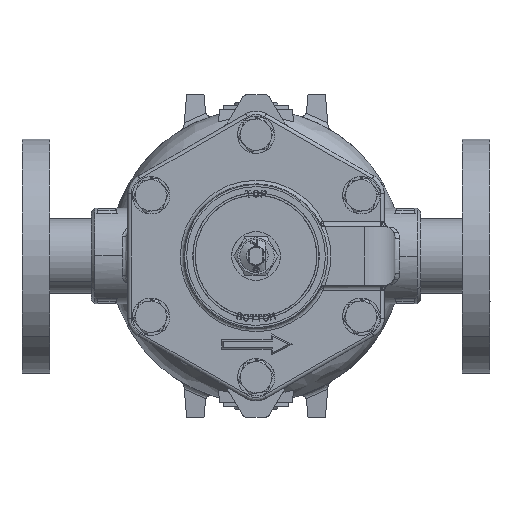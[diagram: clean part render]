
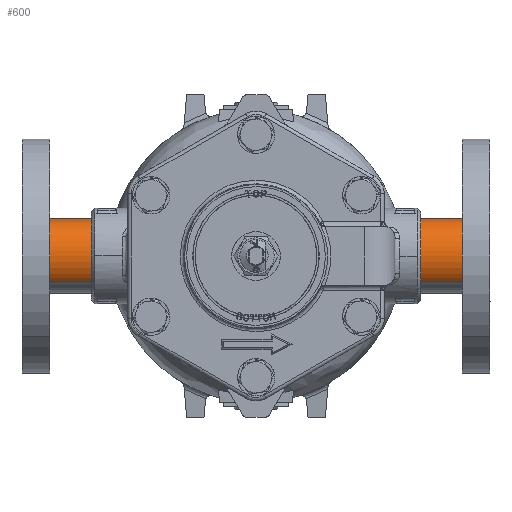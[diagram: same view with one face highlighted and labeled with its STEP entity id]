
A CAD part, front view. The second image highlights one B-rep face of the part: STEP entity #600.
In plain terms, the highlighted cylindrical face has radius 21.35 mm (diameter 42.7 mm), a partial arc.
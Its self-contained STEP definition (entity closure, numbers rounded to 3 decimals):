
#600=ADVANCED_FACE('',(#1590),#1589,.T.);
#1589=CYLINDRICAL_SURFACE('',#9624,21.35);
#1590=FACE_OUTER_BOUND('',#9625,.T.);
#9621=CARTESIAN_POINT('',(0.,266.5,0.));
#9622=DIRECTION('',(0.,1.,0.));
#9623=DIRECTION('',(0.725,0.,0.688));
#9624=AXIS2_PLACEMENT_3D('',#9621,#9622,#9623);
#9625=EDGE_LOOP('',(#24238,#24239,#24240,#24241,#24242,#24243,#24244,#24245,#24246,#24247));
#24238=ORIENTED_EDGE('',*,*,#29168,.F.);
#24239=ORIENTED_EDGE('',*,*,#29167,.F.);
#24240=ORIENTED_EDGE('',*,*,#29166,.F.);
#24241=ORIENTED_EDGE('',*,*,#29165,.F.);
#24242=ORIENTED_EDGE('',*,*,#29180,.T.);
#24243=ORIENTED_EDGE('',*,*,#29150,.T.);
#24244=ORIENTED_EDGE('',*,*,#29149,.T.);
#24245=ORIENTED_EDGE('',*,*,#29148,.T.);
#24246=ORIENTED_EDGE('',*,*,#29147,.T.);
#24247=ORIENTED_EDGE('',*,*,#29181,.F.);
#29147=EDGE_CURVE('',#32316,#32308,#32317,.T.);
#29148=EDGE_CURVE('',#32323,#32316,#32324,.T.);
#29149=EDGE_CURVE('',#32330,#32323,#32331,.T.);
#29150=EDGE_CURVE('',#32337,#32330,#32338,.T.);
#29165=EDGE_CURVE('',#32435,#32442,#32443,.T.);
#29166=EDGE_CURVE('',#32442,#32449,#32450,.T.);
#29167=EDGE_CURVE('',#32449,#32456,#32457,.T.);
#29168=EDGE_CURVE('',#32456,#32463,#32464,.T.);
#29180=EDGE_CURVE('',#32435,#32337,#32544,.T.);
#29181=EDGE_CURVE('',#32463,#32308,#32550,.T.);
#32308=VERTEX_POINT('',#49266);
#32316=VERTEX_POINT('',#49275);
#32317=(BOUNDED_CURVE() B_SPLINE_CURVE(3,(#49276,#49277,#49278,#49279,#49280,#49281,#49282),.UNSPECIFIED.,.F.,.F.) B_SPLINE_CURVE_WITH_KNOTS((4,1,1,1,4),(0.,4.454,8.908,14.41,16.209),.UNSPECIFIED.) CURVE() GEOMETRIC_REPRESENTATION_ITEM() RATIONAL_B_SPLINE_CURVE((1.,1.,1.,1.,1.,1.,1.)) REPRESENTATION_ITEM('') );
#32323=VERTEX_POINT('',#49283);
#32324=(BOUNDED_CURVE() B_SPLINE_CURVE(3,(#49284,#49285,#49286,#49287,#49288,#49289,#49290),.UNSPECIFIED.,.F.,.F.) B_SPLINE_CURVE_WITH_KNOTS((4,1,1,1,4),(0.,4.061,8.934,13.266,17.327),.UNSPECIFIED.) CURVE() GEOMETRIC_REPRESENTATION_ITEM() RATIONAL_B_SPLINE_CURVE((1.,1.,1.,1.,1.,1.,1.)) REPRESENTATION_ITEM('') );
#32330=VERTEX_POINT('',#49291);
#32331=CIRCLE('',#49295,21.35);
#32337=VERTEX_POINT('',#49296);
#32338=CIRCLE('',#49300,21.35);
#32435=VERTEX_POINT('',#49390);
#32442=VERTEX_POINT('',#49395);
#32443=CIRCLE('',#49399,21.35);
#32449=VERTEX_POINT('',#49400);
#32450=(BOUNDED_CURVE() B_SPLINE_CURVE(3,(#49401,#49402,#49403,#49404,#49405,#49406),.UNSPECIFIED.,.F.,.F.) B_SPLINE_CURVE_WITH_KNOTS((4,1,1,4),(0.,5.572,11.144,16.209),.UNSPECIFIED.) CURVE() GEOMETRIC_REPRESENTATION_ITEM() RATIONAL_B_SPLINE_CURVE((1.,1.,1.,1.,1.,1.)) REPRESENTATION_ITEM('') );
#32456=VERTEX_POINT('',#49407);
#32457=(BOUNDED_CURVE() B_SPLINE_CURVE(3,(#49408,#49409,#49410,#49411,#49412,#49413,#49414),.UNSPECIFIED.,.F.,.F.) B_SPLINE_CURVE_WITH_KNOTS((4,1,1,1,4),(0.,4.061,8.934,13.266,17.327),.UNSPECIFIED.) CURVE() GEOMETRIC_REPRESENTATION_ITEM() RATIONAL_B_SPLINE_CURVE((1.,1.,1.,1.,1.,1.,1.)) REPRESENTATION_ITEM('') );
#32463=VERTEX_POINT('',#49415);
#32464=(BOUNDED_CURVE() B_SPLINE_CURVE(3,(#49416,#49417,#49418,#49419,#49420,#49421,#49422),.UNSPECIFIED.,.F.,.F.) B_SPLINE_CURVE_WITH_KNOTS((4,1,1,1,4),(0.,4.454,8.908,14.41,16.209),.UNSPECIFIED.) CURVE() GEOMETRIC_REPRESENTATION_ITEM() RATIONAL_B_SPLINE_CURVE((1.,1.,1.,1.,1.,1.,1.)) REPRESENTATION_ITEM('') );
#32544=(BOUNDED_CURVE() B_SPLINE_CURVE(1,(#49488,#49489),.UNSPECIFIED.,.F.,.F.) B_SPLINE_CURVE_WITH_KNOTS((2,2),(0.036,0.964),.UNSPECIFIED.) CURVE() GEOMETRIC_REPRESENTATION_ITEM() RATIONAL_B_SPLINE_CURVE((1.,1.)) REPRESENTATION_ITEM('') );
#32550=(BOUNDED_CURVE() B_SPLINE_CURVE(1,(#49490,#49491),.UNSPECIFIED.,.F.,.F.) B_SPLINE_CURVE_WITH_KNOTS((2,2),(0.036,0.964),.UNSPECIFIED.) CURVE() GEOMETRIC_REPRESENTATION_ITEM() RATIONAL_B_SPLINE_CURVE((0.75,0.75)) REPRESENTATION_ITEM('') );
#49266=CARTESIAN_POINT('',(-15.487,260.,-14.696));
#49275=CARTESIAN_POINT('',(-21.35,260.,0.));
#49276=CARTESIAN_POINT('',(-21.35,260.,0.));
#49277=CARTESIAN_POINT('',(-21.35,260.,-1.485));
#49278=CARTESIAN_POINT('',(-21.039,260.,-4.454));
#49279=CARTESIAN_POINT('',(-19.553,260.,-9.049));
#49280=CARTESIAN_POINT('',(-17.501,260.,-12.426));
#49281=CARTESIAN_POINT('',(-15.9,260.,-14.261));
#49282=CARTESIAN_POINT('',(-15.487,260.,-14.696));
#49283=CARTESIAN_POINT('',(-14.696,260.,15.487));
#49284=CARTESIAN_POINT('',(-14.696,260.,15.487));
#49285=CARTESIAN_POINT('',(-15.678,260.,14.555));
#49286=CARTESIAN_POINT('',(-17.643,260.,12.299));
#49287=CARTESIAN_POINT('',(-19.805,260.,8.409));
#49288=CARTESIAN_POINT('',(-21.083,260.,4.151));
#49289=CARTESIAN_POINT('',(-21.35,260.,1.354));
#49290=CARTESIAN_POINT('',(-21.35,260.,0.));
#49291=CARTESIAN_POINT('',(0.,260.,21.35));
#49292=CARTESIAN_POINT('',(0.,260.,0.));
#49293=DIRECTION('',(0.,-1.,0.));
#49294=DIRECTION('',(0.,0.,-1.));
#49295=AXIS2_PLACEMENT_3D('',#49292,#49293,#49294);
#49296=CARTESIAN_POINT('',(15.487,260.,14.696));
#49297=CARTESIAN_POINT('',(0.,260.,0.));
#49298=DIRECTION('',(0.,-1.,0.));
#49299=DIRECTION('',(-1.,0.,0.));
#49300=AXIS2_PLACEMENT_3D('',#49297,#49298,#49299);
#49390=CARTESIAN_POINT('',(15.487,0.,14.696));
#49395=CARTESIAN_POINT('',(0.,0.,21.35));
#49396=CARTESIAN_POINT('',(0.,0.,0.));
#49397=DIRECTION('',(0.,-1.,0.));
#49398=DIRECTION('',(-1.,0.,0.));
#49399=AXIS2_PLACEMENT_3D('',#49396,#49397,#49398);
#49400=CARTESIAN_POINT('',(-14.696,0.,15.487));
#49401=CARTESIAN_POINT('',(0.,0.,21.35));
#49402=CARTESIAN_POINT('',(-1.857,0.,21.35));
#49403=CARTESIAN_POINT('',(-5.572,0.,20.862));
#49404=CARTESIAN_POINT('',(-10.609,0.,18.783));
#49405=CARTESIAN_POINT('',(-13.472,0.,16.649));
#49406=CARTESIAN_POINT('',(-14.696,0.,15.487));
#49407=CARTESIAN_POINT('',(-21.35,0.,0.));
#49408=CARTESIAN_POINT('',(-14.696,0.,15.487));
#49409=CARTESIAN_POINT('',(-15.678,0.,14.555));
#49410=CARTESIAN_POINT('',(-17.643,0.,12.299));
#49411=CARTESIAN_POINT('',(-19.805,0.,8.409));
#49412=CARTESIAN_POINT('',(-21.083,0.,4.151));
#49413=CARTESIAN_POINT('',(-21.35,0.,1.354));
#49414=CARTESIAN_POINT('',(-21.35,0.,0.));
#49415=CARTESIAN_POINT('',(-15.487,0.,-14.696));
#49416=CARTESIAN_POINT('',(-21.35,0.,0.));
#49417=CARTESIAN_POINT('',(-21.35,0.,-1.485));
#49418=CARTESIAN_POINT('',(-21.039,0.,-4.454));
#49419=CARTESIAN_POINT('',(-19.553,0.,-9.049));
#49420=CARTESIAN_POINT('',(-17.501,0.,-12.426));
#49421=CARTESIAN_POINT('',(-15.9,0.,-14.261));
#49422=CARTESIAN_POINT('',(-15.487,0.,-14.696));
#49488=CARTESIAN_POINT('',(15.487,0.,14.696));
#49489=CARTESIAN_POINT('',(15.487,260.,14.696));
#49490=CARTESIAN_POINT('',(-15.487,0.,-14.696));
#49491=CARTESIAN_POINT('',(-15.487,260.,-14.696));
